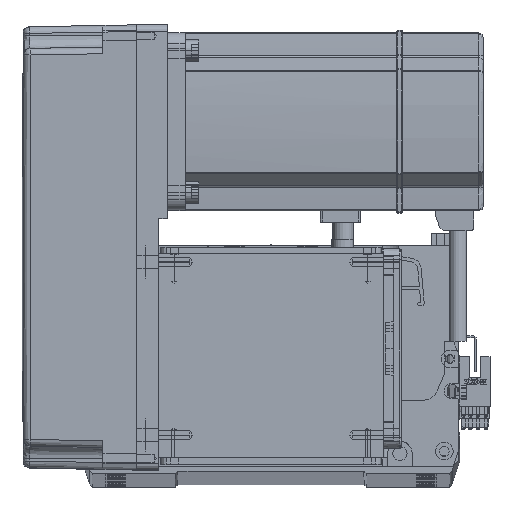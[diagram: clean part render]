
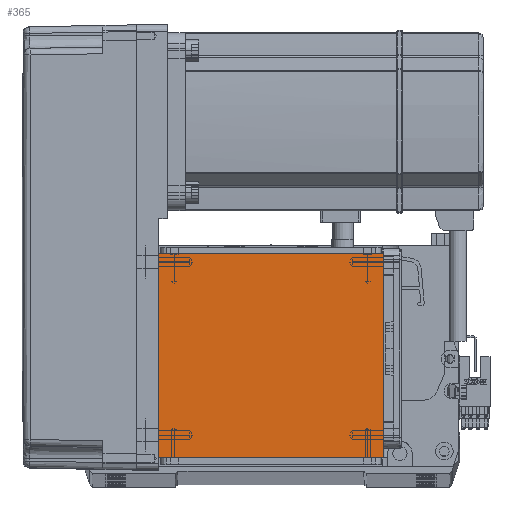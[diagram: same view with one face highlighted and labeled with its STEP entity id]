
A CAD part, top view. The second image highlights one B-rep face of the part: STEP entity #365.
In plain terms, the highlighted planar face has unit normal (0, 0, 1).
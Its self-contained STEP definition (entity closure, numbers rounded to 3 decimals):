
#365 = ADVANCED_FACE ( 'NONE', ( #871 ), #40926, .T. ) ;
#871 = FACE_OUTER_BOUND ( 'NONE', #41494, .T. ) ;
#1053 = EDGE_CURVE ( 'NONE', #27126, #65092, #6523, .T. ) ;
#3373 = ORIENTED_EDGE ( 'NONE', *, *, #34154, .T. ) ;
#4506 = EDGE_CURVE ( 'NONE', #14580, #15980, #31661, .T. ) ;
#5127 = CARTESIAN_POINT ( 'NONE',  ( -50.5, 122., 115. ) ) ;
#6523 = LINE ( 'NONE', #6899, #8941 ) ;
#6899 = CARTESIAN_POINT ( 'NONE',  ( -70.004, 20., 115. ) ) ;
#7544 = LINE ( 'NONE', #25192, #46229 ) ;
#8941 = VECTOR ( 'NONE', #35457, 1000. ) ;
#9137 = DIRECTION ( 'NONE',  ( 1., 0., 0. ) ) ;
#9364 = DIRECTION ( 'NONE',  ( 0., 0., 1. ) ) ;
#9836 = VECTOR ( 'NONE', #63605, 1000. ) ;
#14580 = VERTEX_POINT ( 'NONE', #21319 ) ;
#15980 = VERTEX_POINT ( 'NONE', #50768 ) ;
#16458 = LINE ( 'NONE', #5127, #9836 ) ;
#21319 = CARTESIAN_POINT ( 'NONE',  ( -50.5, 111.5, 115. ) ) ;
#21870 = ORIENTED_EDGE ( 'NONE', *, *, #1053, .F. ) ;
#25192 = CARTESIAN_POINT ( 'NONE',  ( 50.5, 122., 115. ) ) ;
#25540 = CARTESIAN_POINT ( 'NONE',  ( 0., 0., 115. ) ) ;
#27126 = VERTEX_POINT ( 'NONE', #61135 ) ;
#29134 = VECTOR ( 'NONE', #59121, 1000. ) ;
#31661 = LINE ( 'NONE', #42755, #29134 ) ;
#34154 = EDGE_CURVE ( 'NONE', #14580, #65092, #16458, .T. ) ;
#35457 = DIRECTION ( 'NONE',  ( -1., 0., 0. ) ) ;
#40926 = PLANE ( 'NONE',  #62815 ) ;
#41226 = ORIENTED_EDGE ( 'NONE', *, *, #4506, .F. ) ;
#41494 = EDGE_LOOP ( 'NONE', ( #41226, #3373, #21870, #46933 ) ) ;
#41633 = CARTESIAN_POINT ( 'NONE',  ( -50.5, 20., 115. ) ) ;
#42755 = CARTESIAN_POINT ( 'NONE',  ( -70.004, 111.5, 115. ) ) ;
#46229 = VECTOR ( 'NONE', #62017, 1000. ) ;
#46933 = ORIENTED_EDGE ( 'NONE', *, *, #64565, .T. ) ;
#50768 = CARTESIAN_POINT ( 'NONE',  ( 50.5, 111.5, 115. ) ) ;
#59121 = DIRECTION ( 'NONE',  ( 1., 0., 0. ) ) ;
#61135 = CARTESIAN_POINT ( 'NONE',  ( 50.5, 20., 115. ) ) ;
#62017 = DIRECTION ( 'NONE',  ( 0., 1., 0. ) ) ;
#62815 = AXIS2_PLACEMENT_3D ( 'NONE', #25540, #9364, #9137 ) ;
#63605 = DIRECTION ( 'NONE',  ( 0., -1., 0. ) ) ;
#64565 = EDGE_CURVE ( 'NONE', #27126, #15980, #7544, .T. ) ;
#65092 = VERTEX_POINT ( 'NONE', #41633 ) ;
